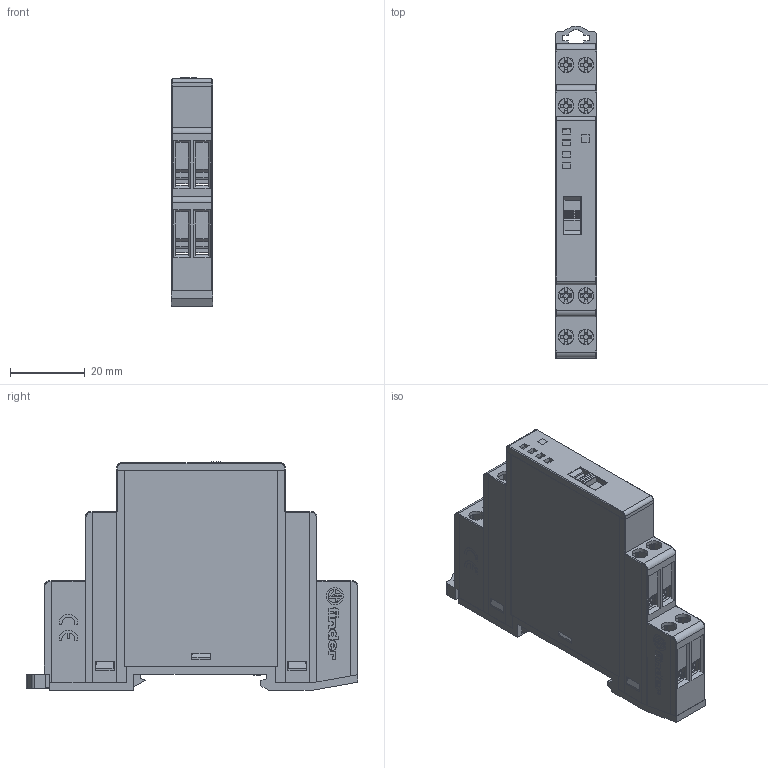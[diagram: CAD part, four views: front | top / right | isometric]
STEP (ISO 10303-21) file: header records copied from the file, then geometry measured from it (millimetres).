
FILE_DESCRIPTION(/* description */ ('Unknown'),/* implementation_level */ '2;1');
FILE_NAME(/* name */ '19_21 - C',/* time_stamp */ '2016-03-18T15:44:59+01:00',/* author */ ('Unknown'),/* organization */ ('Unknown'),/* preprocessor_version */ 'ST-DEVELOPER v16',/* originating_system */ 'DEX',/* authorisation */ $);
FILE_SCHEMA (('AUTOMOTIVE_DESIGN {1 0 10303 214 3 1 1}'));
Products named in the file (1): 19_21 - C
Bounding box: 11.2 x 88.85 x 61.1 mm (x, y, z)
Surface area: 17508.6 mm2 (no closed solid volume)
Topology: 0 solids, 54 shells, 1894 faces, 5840 edges, 4034 vertices
Faces by surface type: plane 1617, cylinder 202, cone 33, torus 28, bspline 14
Full cylindrical faces by diameter (mm): 1.2 x2, 3 x1, 4.2 x8, 4.566 x2, 4.6 x8
Entity records: 66244 total; most frequent: CARTESIAN_POINT 14273, ORIENTED_EDGE 10324, DIRECTION 10171, EDGE_CURVE 5800, LINE 4919, VECTOR 4919, VERTEX_POINT 4016, AXIS2_PLACEMENT_3D 2626
